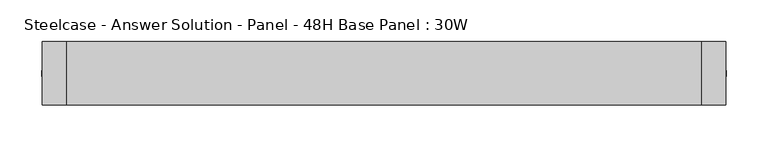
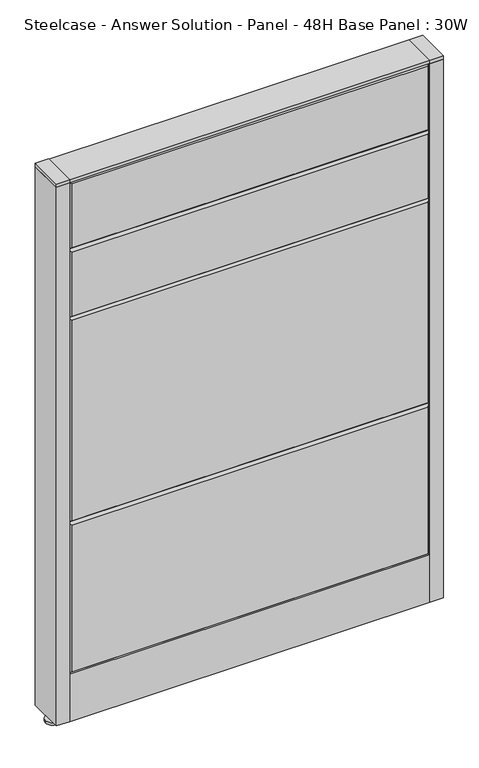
"""IFC4 building model written with IfcOpenShell, lengths in millimetres: furniture geometry, Steelcase - Answer Solution - Panel - 48H Base Panel : 30W."""

from ifc_helpers import new_model, si_unit, point, frame, frame_2d, origin, place, context, project, spatial, polyline, circle_curve, trimmed, segment, composite_curve, outline, extrude, faceted_brep, source, transform, mapped, element, save


def steelcase_answer_solution_panel_48h_base_panel_30w_6e9c6d57(model_context):
    return source(origin(), model_context, "Body", "SolidModel", [
        extrude(outline(composite_curve([segment(trimmed(circle_curve(frame_2d((395.224, 0.0320214)), 5.08), [point((400.304, 0.0320214))], [point((390.144, 0.0320214))], False, "CARTESIAN"), True, "CONTINUOUS"), segment(trimmed(circle_curve(frame_2d((395.224, 0.0320214)), 5.08), [point((390.144, 0.0320214))], [point((400.304, 0.0320214))], False, "CARTESIAN"), True, "CONTINUOUS")], self_intersect=False)), frame((0.0, 0.0, 5.0799671), z_axis=(0.0, 0.0, 1.0), x_axis=(1.0, 0.0, 0.0)), (0.0, 0.0, 1.0), 10.414),
        extrude(outline(composite_curve([segment(trimmed(circle_curve(frame_2d((395.224, 0.0320214)), 15.24), [point((410.464, 0.0320214))], [point((379.984, 0.0320214))], False, "CARTESIAN"), True, "CONTINUOUS"), segment(trimmed(circle_curve(frame_2d((395.224, 0.0320214)), 15.24), [point((379.984, 0.0320214))], [point((410.464, 0.0320214))], False, "CARTESIAN"), True, "CONTINUOUS")], self_intersect=False)), frame((0.0, 0.0, -3.29e-05), z_axis=(0.0, 0.0, 1.0), x_axis=(1.0, 0.0, 0.0)), (0.0, 0.0, 1.0), 5.08),
        extrude(outline(polyline([(409.575, 38.1320408), (409.575, -38.0679592), (381.0, -38.0679592), (381.0, 38.1320408), (409.575, 38.1320408)])), frame((0.0, 0.0, 1218.2348), z_axis=(0.0, 0.0, 1.0), x_axis=(1.0, 0.0, 0.0)), (0.0, 0.0, 1.0), 7.3151671),
        extrude(outline(polyline([(409.575, 38.1320408), (409.575, -38.0679592), (381.0, -38.0679592), (381.0, 38.1320408), (409.575, 38.1320408)])), frame((0.0, 0.0, 15.4939671), z_axis=(0.0, 0.0, 1.0), x_axis=(1.0, 0.0, 0.0)), (0.0, 0.0, 1.0), 1202.7408329),
        extrude(outline(composite_curve([segment(trimmed(circle_curve(frame_2d((-395.224, 0.0320214)), 5.08), [point((-400.304, 0.0320214))], [point((-390.144, 0.0320214))], False, "CARTESIAN"), True, "CONTINUOUS"), segment(trimmed(circle_curve(frame_2d((-395.224, 0.0320214)), 5.08), [point((-390.144, 0.0320214))], [point((-400.304, 0.0320214))], False, "CARTESIAN"), True, "CONTINUOUS")], self_intersect=False)), frame((0.0, 0.0, 5.0799671), z_axis=(0.0, 0.0, 1.0), x_axis=(1.0, 0.0, 0.0)), (0.0, 0.0, 1.0), 10.414),
        extrude(outline(composite_curve([segment(trimmed(circle_curve(frame_2d((-395.224, 0.0320214)), 15.24), [point((-410.464, 0.0320214))], [point((-379.984, 0.0320214))], False, "CARTESIAN"), True, "CONTINUOUS"), segment(trimmed(circle_curve(frame_2d((-395.224, 0.0320214)), 15.24), [point((-379.984, 0.0320214))], [point((-410.464, 0.0320214))], False, "CARTESIAN"), True, "CONTINUOUS")], self_intersect=False)), frame((0.0, 0.0, -3.29e-05), z_axis=(0.0, 0.0, 1.0), x_axis=(1.0, 0.0, 0.0)), (0.0, 0.0, 1.0), 5.08),
        extrude(outline(polyline([(-409.575, 38.1320408), (-381.0, 38.1320408), (-381.0, -38.0679592), (-409.575, -38.0679592), (-409.575, 38.1320408)])), frame((0.0, 0.0, 1218.2348), z_axis=(0.0, 0.0, 1.0), x_axis=(1.0, 0.0, 0.0)), (0.0, 0.0, 1.0), 7.3151671),
        extrude(outline(polyline([(-409.575, 38.1320408), (-381.0, 38.1320408), (-381.0, -38.0679592), (-409.575, -38.0679592), (-409.575, 38.1320408)])), frame((0.0, 0.0, 15.4939671), z_axis=(0.0, 0.0, 1.0), x_axis=(1.0, 0.0, 0.0)), (0.0, 0.0, 1.0), 1202.7408329),
        faceted_brep([(-376.174, 38.1635011, 1214.374), (376.174, 38.1635011, 1214.374), (376.174, 38.1635011, 1071.626), (-376.174, 38.1635011, 1071.626), (-381.0, 33.3375011, 1219.2), (-381.0, 33.3375011, 1066.8), (381.0, 33.3375011, 1066.8), (381.0, 33.3375011, 1219.2)], [[[0, 1, 2, 3]], [[4, 5, 6, 7]], [[4, 7, 1, 0]], [[7, 6, 2, 1]], [[6, 5, 3, 2]], [[5, 4, 0, 3]]]),
        faceted_brep([(-376.174, 38.1635011, 1061.974), (376.174, 38.1635011, 1061.974), (376.174, 38.1635011, 919.226), (-376.174, 38.1635011, 919.226), (-381.0, 33.3375011, 1066.8), (-381.0, 33.3375011, 914.4), (381.0, 33.3375011, 914.4), (381.0, 33.3375011, 1066.8)], [[[0, 1, 2, 3]], [[4, 5, 6, 7]], [[4, 7, 1, 0]], [[7, 6, 2, 1]], [[6, 5, 3, 2]], [[5, 4, 0, 3]]]),
        faceted_brep([(-376.174, 38.1635011, 909.574), (376.174, 38.1635011, 909.574), (376.174, 38.1635011, 462.026), (-376.174, 38.1635011, 462.026), (-381.0, 33.3375011, 914.4), (-381.0, 33.3375011, 457.2), (381.0, 33.3375011, 457.2), (381.0, 33.3375011, 914.4)], [[[0, 1, 2, 3]], [[4, 5, 6, 7]], [[4, 7, 1, 0]], [[7, 6, 2, 1]], [[6, 5, 3, 2]], [[5, 4, 0, 3]]]),
        faceted_brep([(-376.174, 38.1635011, 452.374), (376.174, 38.1635011, 452.374), (376.174, 38.1635011, 125.476), (-376.174, 38.1635011, 125.476), (-381.0, 33.3375011, 457.2), (-381.0, 33.3375011, 120.65), (381.0, 33.3375011, 120.65), (381.0, 33.3375011, 457.2)], [[[0, 1, 2, 3]], [[4, 5, 6, 7]], [[4, 7, 1, 0]], [[7, 6, 2, 1]], [[6, 5, 3, 2]], [[5, 4, 0, 3]]]),
        faceted_brep([(376.174, -38.1635011, 1214.374), (-376.174, -38.1635011, 1214.374), (-376.174, -38.1635011, 1071.626), (376.174, -38.1635011, 1071.626), (381.0, -33.3375011, 1219.2), (381.0, -33.3375011, 1066.8), (-381.0, -33.3375011, 1066.8), (-381.0, -33.3375011, 1219.2)], [[[0, 1, 2, 3]], [[4, 5, 6, 7]], [[4, 7, 1, 0]], [[7, 6, 2, 1]], [[6, 5, 3, 2]], [[5, 4, 0, 3]]]),
        faceted_brep([(376.174, -38.1635011, 1061.974), (-376.174, -38.1635011, 1061.974), (-376.174, -38.1635011, 919.226), (376.174, -38.1635011, 919.226), (381.0, -33.3375011, 1066.8), (381.0, -33.3375011, 914.4), (-381.0, -33.3375011, 914.4), (-381.0, -33.3375011, 1066.8)], [[[0, 1, 2, 3]], [[4, 5, 6, 7]], [[4, 7, 1, 0]], [[7, 6, 2, 1]], [[6, 5, 3, 2]], [[5, 4, 0, 3]]]),
        faceted_brep([(376.174, -38.1635011, 909.574), (-376.174, -38.1635011, 909.574), (-376.174, -38.1635011, 462.026), (376.174, -38.1635011, 462.026), (381.0, -33.3375011, 914.4), (381.0, -33.3375011, 457.2), (-381.0, -33.3375011, 457.2), (-381.0, -33.3375011, 914.4)], [[[0, 1, 2, 3]], [[4, 5, 6, 7]], [[4, 7, 1, 0]], [[7, 6, 2, 1]], [[6, 5, 3, 2]], [[5, 4, 0, 3]]]),
        faceted_brep([(376.174, -38.1635011, 452.374), (-376.174, -38.1635011, 452.374), (-376.174, -38.1635011, 125.476), (376.174, -38.1635011, 125.476), (381.0, -33.3375011, 457.2), (381.0, -33.3375011, 120.65), (-381.0, -33.3375011, 120.65), (-381.0, -33.3375011, 457.2)], [[[0, 1, 2, 3]], [[4, 5, 6, 7]], [[4, 7, 1, 0]], [[7, 6, 2, 1]], [[6, 5, 3, 2]], [[5, 4, 0, 3]]]),
        extrude(outline(polyline([(381.0, 38.1000194), (381.0, -38.1000194), (-381.0, -38.1000194), (-381.0, 38.1000194), (381.0, 38.1000194)])), frame((0.0, 0.0, 1219.2), z_axis=(0.0, 0.0, 1.0), x_axis=(1.0, 0.0, 0.0)), (0.0, 0.0, 1.0), 6.35),
        extrude(outline(polyline([(25.4000011, 119.8575157), (25.4000011, 120.65), (38.1000194, 120.65), (38.1000194, 15.494), (37.3075215, 15.494), (37.3075215, 119.8575157), (25.4000011, 119.8575157)])), frame((-381.0, 0.0, 0.0), z_axis=(1.0, 0.0, 0.0), x_axis=(0.0, 1.0, 0.0)), (0.0, 0.0, 1.0), 762.0),
        extrude(outline(polyline([(-25.4000011, 119.8575157), (-37.3075215, 119.8575157), (-37.3075215, 15.494), (-38.1000194, 15.494), (-38.1000194, 120.65), (-25.4000011, 120.65), (-25.4000011, 119.8575157)])), frame((-381.0, 0.0, 0.0), z_axis=(1.0, 0.0, 0.0), x_axis=(0.0, 1.0, 0.0)), (0.0, 0.0, 1.0), 762.0),
    ])


if __name__ == "__main__":
    model = new_model("IFC4")
    model_context = context("Model", 3, world=origin())
    ifc_project = project(units=[si_unit("LENGTHUNIT", "METRE", prefix="MILLI")], contexts=[model_context])
    site = spatial("IfcSite", under=ifc_project)
    building = spatial("IfcBuilding", under=site)
    placement = place(None, origin())
    steelcase_answer_solution_panel_48h_base_panel_30w_shape = steelcase_answer_solution_panel_48h_base_panel_30w_6e9c6d57(model_context)
    element("IfcFurniture", 1, ObjectType="Steelcase - Answer Solution - Panel - 48H Base Panel : 30W", at=placement, inside=building, context=model_context, shape_type="MappedRepresentation", body=[
        mapped(steelcase_answer_solution_panel_48h_base_panel_30w_shape, transform((0.0, 0.0, 0.0), x_axis=(1.0, 0.0, 0.0), y_axis=(0.0, 1.0, 0.0), z_axis=(0.0, 0.0, 1.0))),
    ])
    save(model, "model.ifc")
